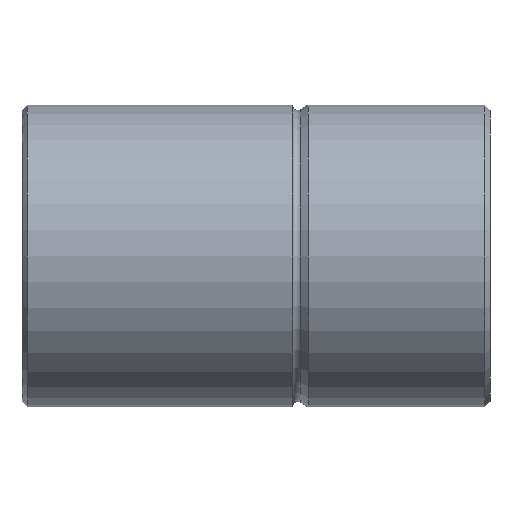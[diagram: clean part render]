
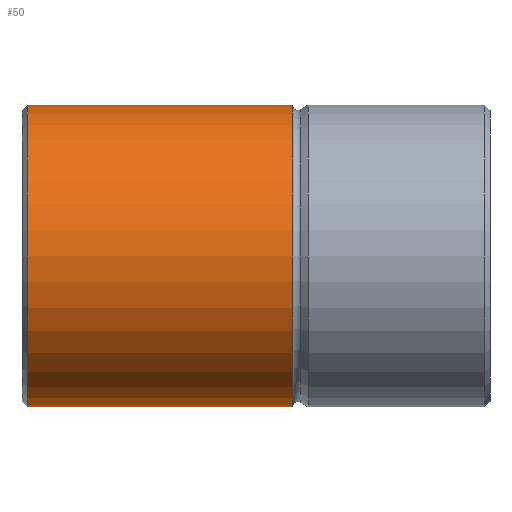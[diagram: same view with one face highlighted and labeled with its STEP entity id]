
A CAD part, front view. The second image highlights one B-rep face of the part: STEP entity #50.
In plain terms, the highlighted cylindrical face has radius 29.02 mm (diameter 58.04 mm), a full revolution.
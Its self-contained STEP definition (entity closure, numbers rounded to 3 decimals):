
#50 = ADVANCED_FACE( '', ( #110, #111, #112 ), #113, .T. );
#110 = FACE_OUTER_BOUND( '', #183, .T. );
#111 = FACE_BOUND( '', #184, .T. );
#112 = FACE_OUTER_BOUND( '', #185, .T. );
#113 = CYLINDRICAL_SURFACE( '', #186, 29.02 );
#183 = EDGE_LOOP( '', ( #260 ) );
#184 = EDGE_LOOP( '', ( #261 ) );
#185 = EDGE_LOOP( '', ( #262 ) );
#186 = AXIS2_PLACEMENT_3D( '', #263, #264, #265 );
#260 = ORIENTED_EDGE( '', *, *, #342, .T. );
#261 = ORIENTED_EDGE( '', *, *, #343, .T. );
#262 = ORIENTED_EDGE( '', *, *, #333, .F. );
#263 = CARTESIAN_POINT( '', ( 0., 0., 0. ) );
#264 = DIRECTION( '', ( -1., 0., 0. ) );
#265 = DIRECTION( '', ( 0., 0., -1. ) );
#333 = EDGE_CURVE( '', #370, #370, #371, .T. );
#342 = EDGE_CURVE( '', #385, #385, #386, .T. );
#343 = EDGE_CURVE( '', #387, #387, #388, .T. );
#370 = VERTEX_POINT( '', #420 );
#371 = CIRCLE( '', #421, 29.02 );
#385 = VERTEX_POINT( '', #484 );
#386 = CIRCLE( '', #485, 29.02 );
#387 = VERTEX_POINT( '', #486 );
#388 = B_SPLINE_CURVE_WITH_KNOTS( '', 3, ( #487, #488, #489, #490, #491, #492, #493, #494, #495, #496, #497, #498, #499, #500, #501, #502, #503, #504, #505, #506, #507, #508, #509, #510, #511, #512, #513, #514, #515, #516, #517, #518, #519, #520, #521, #522, #523, #524, #525, #526, #527, #528, #529, #530, #531, #532, #533, #534, #535, #536, #537, #538, #539, #540, #541, #542, #543, #544, #545, #546, #547, #548, #549, #550 ), .UNSPECIFIED., .T., .F., ( 2, 2, 2, 2, 2, 2, 2, 2, 2, 2, 2, 2, 2, 2, 2, 2, 2, 2, 2, 2, 2, 2, 2, 2, 2, 2, 2, 2, 2, 2, 2, 2, 2, 2 ), ( -0.001, 0., 0., 0.001, 0.001, 0.002, 0.002, 0.003, 0.003, 0.004, 0.004, 0.005, 0.005, 0.006, 0.006, 0.007, 0.007, 0.008, 0.008, 0.009, 0.009, 0.01, 0.01, 0.011, 0.011, 0.012, 0.012, 0.013, 0.013, 0.014, 0.014, 0.015, 0.016, 0.016 ), .UNSPECIFIED. );
#420 = CARTESIAN_POINT( '', ( -38., 0., -29.02 ) );
#421 = AXIS2_PLACEMENT_3D( '', #583, #584, #585 );
#484 = CARTESIAN_POINT( '', ( -89., 0., -29.02 ) );
#485 = AXIS2_PLACEMENT_3D( '', #598, #599, #600 );
#486 = CARTESIAN_POINT( '', ( -80., 28.912, -2.5 ) );
#487 = CARTESIAN_POINT( '', ( -80.33, 28.912, -2.5 ) );
#488 = CARTESIAN_POINT( '', ( -79.835, 28.912, -2.5 ) );
#489 = CARTESIAN_POINT( '', ( -79.672, 28.914, -2.484 ) );
#490 = CARTESIAN_POINT( '', ( -79.353, 28.919, -2.42 ) );
#491 = CARTESIAN_POINT( '', ( -79.194, 28.923, -2.372 ) );
#492 = CARTESIAN_POINT( '', ( -78.891, 28.933, -2.247 ) );
#493 = CARTESIAN_POINT( '', ( -78.748, 28.939, -2.17 ) );
#494 = CARTESIAN_POINT( '', ( -78.476, 28.952, -1.988 ) );
#495 = CARTESIAN_POINT( '', ( -78.347, 28.959, -1.883 ) );
#496 = CARTESIAN_POINT( '', ( -78.117, 28.973, -1.652 ) );
#497 = CARTESIAN_POINT( '', ( -78.013, 28.98, -1.527 ) );
#498 = CARTESIAN_POINT( '', ( -77.831, 28.993, -1.253 ) );
#499 = CARTESIAN_POINT( '', ( -77.753, 28.999, -1.108 ) );
#500 = CARTESIAN_POINT( '', ( -77.628, 29.009, -0.807 ) );
#501 = CARTESIAN_POINT( '', ( -77.58, 29.013, -0.649 ) );
#502 = CARTESIAN_POINT( '', ( -77.516, 29.019, -0.327 ) );
#503 = CARTESIAN_POINT( '', ( -77.5, 29.02, -0.164 ) );
#504 = CARTESIAN_POINT( '', ( -77.5, 29.02, 0.162 ) );
#505 = CARTESIAN_POINT( '', ( -77.516, 29.019, 0.327 ) );
#506 = CARTESIAN_POINT( '', ( -77.58, 29.013, 0.648 ) );
#507 = CARTESIAN_POINT( '', ( -77.627, 29.009, 0.804 ) );
#508 = CARTESIAN_POINT( '', ( -77.752, 28.999, 1.107 ) );
#509 = CARTESIAN_POINT( '', ( -77.831, 28.993, 1.253 ) );
#510 = CARTESIAN_POINT( '', ( -78.012, 28.98, 1.524 ) );
#511 = CARTESIAN_POINT( '', ( -78.115, 28.973, 1.65 ) );
#512 = CARTESIAN_POINT( '', ( -78.348, 28.959, 1.884 ) );
#513 = CARTESIAN_POINT( '', ( -78.474, 28.952, 1.987 ) );
#514 = CARTESIAN_POINT( '', ( -78.745, 28.939, 2.168 ) );
#515 = CARTESIAN_POINT( '', ( -78.891, 28.933, 2.247 ) );
#516 = CARTESIAN_POINT( '', ( -79.194, 28.923, 2.372 ) );
#517 = CARTESIAN_POINT( '', ( -79.35, 28.919, 2.419 ) );
#518 = CARTESIAN_POINT( '', ( -79.67, 28.914, 2.484 ) );
#519 = CARTESIAN_POINT( '', ( -79.836, 28.912, 2.5 ) );
#520 = CARTESIAN_POINT( '', ( -80.162, 28.912, 2.5 ) );
#521 = CARTESIAN_POINT( '', ( -80.325, 28.913, 2.484 ) );
#522 = CARTESIAN_POINT( '', ( -80.647, 28.919, 2.42 ) );
#523 = CARTESIAN_POINT( '', ( -80.805, 28.923, 2.372 ) );
#524 = CARTESIAN_POINT( '', ( -81.106, 28.933, 2.248 ) );
#525 = CARTESIAN_POINT( '', ( -81.251, 28.939, 2.171 ) );
#526 = CARTESIAN_POINT( '', ( -81.525, 28.952, 1.988 ) );
#527 = CARTESIAN_POINT( '', ( -81.651, 28.959, 1.885 ) );
#528 = CARTESIAN_POINT( '', ( -81.881, 28.973, 1.654 ) );
#529 = CARTESIAN_POINT( '', ( -81.987, 28.98, 1.526 ) );
#530 = CARTESIAN_POINT( '', ( -82.169, 28.993, 1.254 ) );
#531 = CARTESIAN_POINT( '', ( -82.246, 28.999, 1.111 ) );
#532 = CARTESIAN_POINT( '', ( -82.371, 29.009, 0.808 ) );
#533 = CARTESIAN_POINT( '', ( -82.42, 29.013, 0.649 ) );
#534 = CARTESIAN_POINT( '', ( -82.483, 29.019, 0.33 ) );
#535 = CARTESIAN_POINT( '', ( -82.5, 29.02, 0.168 ) );
#536 = CARTESIAN_POINT( '', ( -82.5, 29.02, -0.163 ) );
#537 = CARTESIAN_POINT( '', ( -82.484, 29.019, -0.326 ) );
#538 = CARTESIAN_POINT( '', ( -82.421, 29.013, -0.645 ) );
#539 = CARTESIAN_POINT( '', ( -82.373, 29.009, -0.804 ) );
#540 = CARTESIAN_POINT( '', ( -82.248, 28.999, -1.107 ) );
#541 = CARTESIAN_POINT( '', ( -82.171, 28.993, -1.251 ) );
#542 = CARTESIAN_POINT( '', ( -81.99, 28.98, -1.522 ) );
#543 = CARTESIAN_POINT( '', ( -81.884, 28.973, -1.651 ) );
#544 = CARTESIAN_POINT( '', ( -81.654, 28.959, -1.882 ) );
#545 = CARTESIAN_POINT( '', ( -81.528, 28.952, -1.985 ) );
#546 = CARTESIAN_POINT( '', ( -81.255, 28.939, -2.168 ) );
#547 = CARTESIAN_POINT( '', ( -81.11, 28.933, -2.246 ) );
#548 = CARTESIAN_POINT( '', ( -80.659, 28.918, -2.434 ) );
#549 = CARTESIAN_POINT( '', ( -80.33, 28.912, -2.5 ) );
#550 = CARTESIAN_POINT( '', ( -79.835, 28.912, -2.5 ) );
#583 = CARTESIAN_POINT( '', ( -38., 0., 0. ) );
#584 = DIRECTION( '', ( 1., 0., 0. ) );
#585 = DIRECTION( '', ( 0., 0., -1. ) );
#598 = CARTESIAN_POINT( '', ( -89., 0., 0. ) );
#599 = DIRECTION( '', ( 1., 0., 0. ) );
#600 = DIRECTION( '', ( 0., 0., -1. ) );
